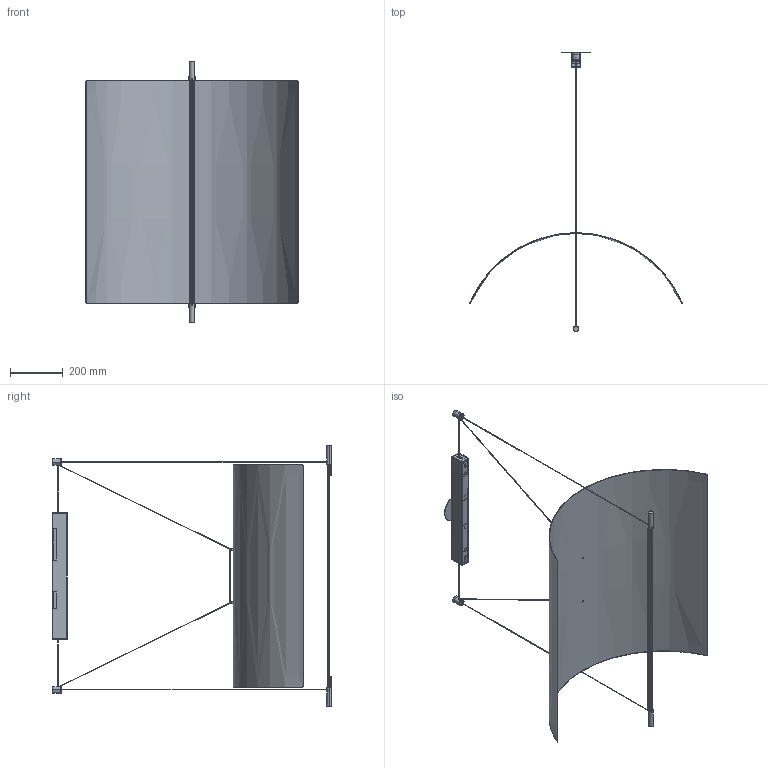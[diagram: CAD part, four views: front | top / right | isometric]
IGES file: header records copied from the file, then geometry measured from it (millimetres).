
Start section: SolidWorks IGES file using analytic representation for surfaces
Global section: file name: C:\Users\berta.gumma\OneDrive - santa &cole\Desktop\Lámina mayor UL.IGS; native system: SolidWorks 2021; preprocessor: SolidWorks 2021; author: berta.gumma; date: 230919.125332; units: millimetre
Bounding box: 802.76 x 1056.25 x 987 mm (x, y, z)
Surface area: 2214464.9 mm2 (no closed solid volume)
Topology: 0 solids, 0 shells, 5624 faces, 47734 edges, 47690 vertices
Faces by surface type: bspline 4219, revolution 1405
